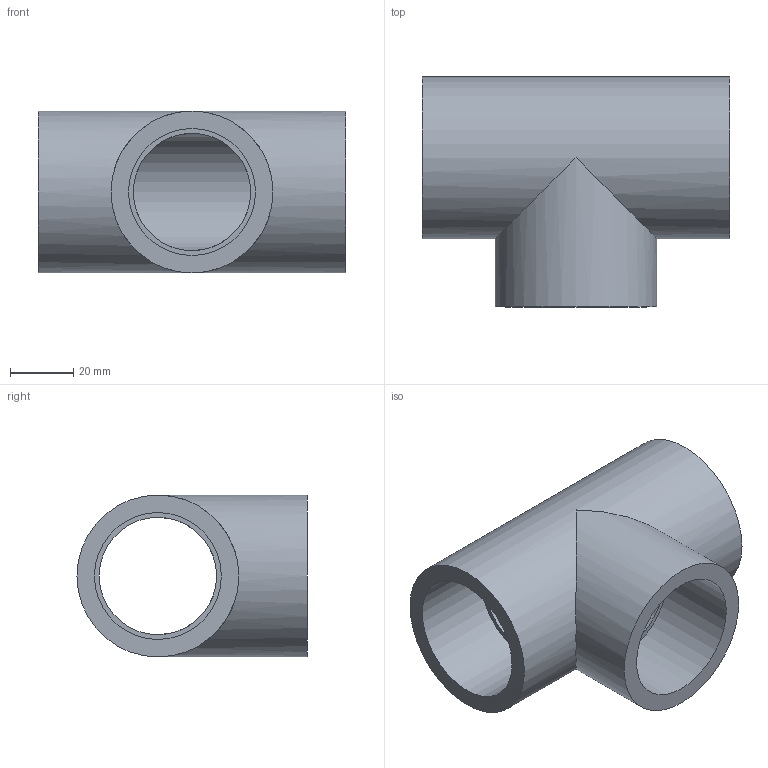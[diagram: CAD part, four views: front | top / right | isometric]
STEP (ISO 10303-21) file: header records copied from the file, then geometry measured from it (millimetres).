
FILE_DESCRIPTION(/* description */ ('PVC ti a 90° incollaggio metrico'),/* implementation_level */ '2;1');
FILE_NAME(/* name */ 'C:\Users\POLYPIPE\Desktop\DATASET INVENTOR\LIBRERIA EFFAST\RACCORDI 3DxWEB\RDR\3D_RDRTID\3D_RDRTID0400.stp',/* time_stamp */ '2018-01-19T15:38:06+01:00',/* author */ ('POLYPIPE'),/* organization */ ('Polypipe Italia s.r.l.'),/* preprocessor_version */ 'ST-DEVELOPER v16.1',/* originating_system */ 'Autodesk Inventor 2016',/* authorisation */ '');
FILE_SCHEMA (('CONFIG_CONTROL_DESIGN'));
Length unit declared in the file: millimetre
Products named in the file (1): 3D_RDRTID
Bounding box: 97 x 72.5 x 51 mm (x, y, z)
Volume: 97852 mm3; surface area: 35508.2 mm2
Topology: 1 solids, 1 shells, 13 faces, 25 edges, 18 vertices
Faces by surface type: cylinder 7, plane 6
Full cylindrical faces by diameter (mm): 37 x2, 40 x3, 51 x2
Entity records: 326 total; most frequent: DIRECTION 60, CARTESIAN_POINT 46, ORIENTED_EDGE 32, AXIS2_PLACEMENT_3D 30, EDGE_LOOP 28, VERTEX_POINT 16, EDGE_CURVE 16, FACE_BOUND 15
